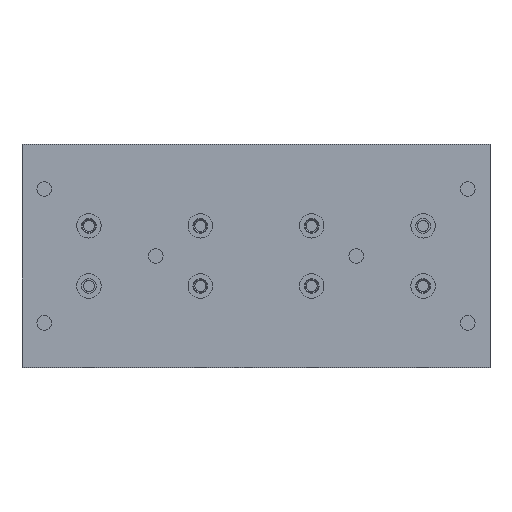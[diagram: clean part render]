
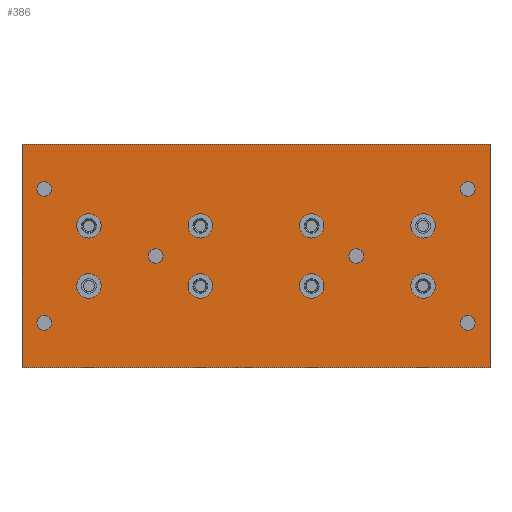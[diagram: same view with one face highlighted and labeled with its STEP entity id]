
A CAD part, top view. The second image highlights one B-rep face of the part: STEP entity #386.
In plain terms, the highlighted planar face has unit normal (0, 0, 1) as drawn and (0, 0, -1) by its records, which use the part's own axes.
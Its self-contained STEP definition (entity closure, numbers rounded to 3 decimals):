
#386=ADVANCED_FACE('',(#1080,#1081,#1082,#1083,#1084,#1085,#1086,#1087,
#1088,#1089,#1090,#1091,#1092,#1093,#1094),#501,.F.);
#501=PLANE('',#3344);
#645=LINE('',#4936,#797);
#646=LINE('',#4939,#798);
#647=LINE('',#4941,#799);
#648=LINE('',#4943,#800);
#797=VECTOR('',#4084,1.);
#798=VECTOR('',#4085,1.);
#799=VECTOR('',#4086,1.);
#800=VECTOR('',#4087,1.);
#1080=FACE_BOUND('',#1473,.T.);
#1081=FACE_BOUND('',#1474,.T.);
#1082=FACE_BOUND('',#1475,.T.);
#1083=FACE_BOUND('',#1476,.T.);
#1084=FACE_BOUND('',#1477,.T.);
#1085=FACE_BOUND('',#1478,.T.);
#1086=FACE_BOUND('',#1479,.T.);
#1087=FACE_BOUND('',#1480,.T.);
#1088=FACE_BOUND('',#1481,.T.);
#1089=FACE_BOUND('',#1482,.T.);
#1090=FACE_BOUND('',#1483,.T.);
#1091=FACE_BOUND('',#1484,.T.);
#1092=FACE_BOUND('',#1485,.T.);
#1093=FACE_BOUND('',#1486,.T.);
#1094=FACE_BOUND('',#1487,.T.);
#1473=EDGE_LOOP('',(#2083));
#1474=EDGE_LOOP('',(#2084));
#1475=EDGE_LOOP('',(#2085));
#1476=EDGE_LOOP('',(#2086,#2087,#2088,#2089));
#1477=EDGE_LOOP('',(#2090));
#1478=EDGE_LOOP('',(#2091));
#1479=EDGE_LOOP('',(#2092));
#1480=EDGE_LOOP('',(#2093));
#1481=EDGE_LOOP('',(#2094));
#1482=EDGE_LOOP('',(#2095));
#1483=EDGE_LOOP('',(#2096));
#1484=EDGE_LOOP('',(#2097));
#1485=EDGE_LOOP('',(#2098));
#1486=EDGE_LOOP('',(#2099));
#1487=EDGE_LOOP('',(#2100));
#2083=ORIENTED_EDGE('',*,*,#2798,.T.);
#2084=ORIENTED_EDGE('',*,*,#2799,.T.);
#2085=ORIENTED_EDGE('',*,*,#2800,.F.);
#2086=ORIENTED_EDGE('',*,*,#2801,.F.);
#2087=ORIENTED_EDGE('',*,*,#2802,.F.);
#2088=ORIENTED_EDGE('',*,*,#2803,.F.);
#2089=ORIENTED_EDGE('',*,*,#2804,.F.);
#2090=ORIENTED_EDGE('',*,*,#2805,.F.);
#2091=ORIENTED_EDGE('',*,*,#2806,.F.);
#2092=ORIENTED_EDGE('',*,*,#2807,.F.);
#2093=ORIENTED_EDGE('',*,*,#2808,.F.);
#2094=ORIENTED_EDGE('',*,*,#2809,.F.);
#2095=ORIENTED_EDGE('',*,*,#2810,.F.);
#2096=ORIENTED_EDGE('',*,*,#2811,.T.);
#2097=ORIENTED_EDGE('',*,*,#2812,.T.);
#2098=ORIENTED_EDGE('',*,*,#2813,.T.);
#2099=ORIENTED_EDGE('',*,*,#2814,.T.);
#2100=ORIENTED_EDGE('',*,*,#2815,.F.);
#2475=VERTEX_POINT('',#4931);
#2476=VERTEX_POINT('',#4933);
#2477=VERTEX_POINT('',#4935);
#2478=VERTEX_POINT('',#4937);
#2479=VERTEX_POINT('',#4938);
#2480=VERTEX_POINT('',#4940);
#2481=VERTEX_POINT('',#4942);
#2482=VERTEX_POINT('',#4945);
#2483=VERTEX_POINT('',#4947);
#2484=VERTEX_POINT('',#4949);
#2485=VERTEX_POINT('',#4951);
#2486=VERTEX_POINT('',#4953);
#2487=VERTEX_POINT('',#4955);
#2488=VERTEX_POINT('',#4957);
#2489=VERTEX_POINT('',#4959);
#2490=VERTEX_POINT('',#4961);
#2491=VERTEX_POINT('',#4963);
#2492=VERTEX_POINT('',#4965);
#2798=EDGE_CURVE('',#2475,#2475,#3016,.T.);
#2799=EDGE_CURVE('',#2476,#2476,#3017,.T.);
#2800=EDGE_CURVE('',#2477,#2477,#3018,.T.);
#2801=EDGE_CURVE('',#2478,#2479,#645,.T.);
#2802=EDGE_CURVE('',#2480,#2478,#646,.T.);
#2803=EDGE_CURVE('',#2481,#2480,#647,.T.);
#2804=EDGE_CURVE('',#2479,#2481,#648,.T.);
#2805=EDGE_CURVE('',#2482,#2482,#3019,.T.);
#2806=EDGE_CURVE('',#2483,#2483,#3020,.T.);
#2807=EDGE_CURVE('',#2484,#2484,#3021,.T.);
#2808=EDGE_CURVE('',#2485,#2485,#3022,.T.);
#2809=EDGE_CURVE('',#2486,#2486,#3023,.T.);
#2810=EDGE_CURVE('',#2487,#2487,#3024,.T.);
#2811=EDGE_CURVE('',#2488,#2488,#3025,.T.);
#2812=EDGE_CURVE('',#2489,#2489,#3026,.T.);
#2813=EDGE_CURVE('',#2490,#2490,#3027,.T.);
#2814=EDGE_CURVE('',#2491,#2491,#3028,.T.);
#2815=EDGE_CURVE('',#2492,#2492,#3029,.T.);
#3016=CIRCLE('',#3330,3.3);
#3017=CIRCLE('',#3331,3.3);
#3018=CIRCLE('',#3332,5.5);
#3019=CIRCLE('',#3333,5.5);
#3020=CIRCLE('',#3334,5.5);
#3021=CIRCLE('',#3335,5.5);
#3022=CIRCLE('',#3336,5.5);
#3023=CIRCLE('',#3337,5.5);
#3024=CIRCLE('',#3338,5.5);
#3025=CIRCLE('',#3339,3.3);
#3026=CIRCLE('',#3340,3.3);
#3027=CIRCLE('',#3341,3.3);
#3028=CIRCLE('',#3342,3.3);
#3029=CIRCLE('',#3343,5.5);
#3330=AXIS2_PLACEMENT_3D('',#4930,#4078,#4079);
#3331=AXIS2_PLACEMENT_3D('',#4932,#4080,#4081);
#3332=AXIS2_PLACEMENT_3D('',#4934,#4082,#4083);
#3333=AXIS2_PLACEMENT_3D('',#4944,#4088,#4089);
#3334=AXIS2_PLACEMENT_3D('',#4946,#4090,#4091);
#3335=AXIS2_PLACEMENT_3D('',#4948,#4092,#4093);
#3336=AXIS2_PLACEMENT_3D('',#4950,#4094,#4095);
#3337=AXIS2_PLACEMENT_3D('',#4952,#4096,#4097);
#3338=AXIS2_PLACEMENT_3D('',#4954,#4098,#4099);
#3339=AXIS2_PLACEMENT_3D('',#4956,#4100,#4101);
#3340=AXIS2_PLACEMENT_3D('',#4958,#4102,#4103);
#3341=AXIS2_PLACEMENT_3D('',#4960,#4104,#4105);
#3342=AXIS2_PLACEMENT_3D('',#4962,#4106,#4107);
#3343=AXIS2_PLACEMENT_3D('',#4964,#4108,#4109);
#3344=AXIS2_PLACEMENT_3D('',#4966,#4110,#4111);
#4078=DIRECTION('',(0.,0.,1.));
#4079=DIRECTION('',(1.,0.,0.));
#4080=DIRECTION('',(0.,0.,1.));
#4081=DIRECTION('',(1.,0.,0.));
#4082=DIRECTION('',(0.,0.,-1.));
#4083=DIRECTION('',(1.,0.,0.));
#4084=DIRECTION('',(-1.,0.,0.));
#4085=DIRECTION('',(0.,1.,0.));
#4086=DIRECTION('',(1.,0.,0.));
#4087=DIRECTION('',(0.,-1.,0.));
#4088=DIRECTION('',(0.,0.,-1.));
#4089=DIRECTION('',(1.,0.,0.));
#4090=DIRECTION('',(0.,0.,-1.));
#4091=DIRECTION('',(1.,0.,0.));
#4092=DIRECTION('',(0.,0.,-1.));
#4093=DIRECTION('',(1.,0.,0.));
#4094=DIRECTION('',(0.,0.,-1.));
#4095=DIRECTION('',(1.,0.,0.));
#4096=DIRECTION('',(0.,0.,-1.));
#4097=DIRECTION('',(1.,0.,0.));
#4098=DIRECTION('',(0.,0.,-1.));
#4099=DIRECTION('',(1.,0.,0.));
#4100=DIRECTION('',(0.,0.,1.));
#4101=DIRECTION('',(-1.,0.,0.));
#4102=DIRECTION('',(0.,0.,1.));
#4103=DIRECTION('',(-1.,0.,0.));
#4104=DIRECTION('',(0.,0.,1.));
#4105=DIRECTION('',(-1.,0.,0.));
#4106=DIRECTION('',(0.,0.,1.));
#4107=DIRECTION('',(-1.,0.,0.));
#4108=DIRECTION('',(0.,0.,-1.));
#4109=DIRECTION('',(1.,0.,0.));
#4110=DIRECTION('',(0.,0.,1.));
#4111=DIRECTION('',(-1.,0.,0.));
#4930=CARTESIAN_POINT('',(60.,0.,0.));
#4931=CARTESIAN_POINT('',(63.3,0.,0.));
#4932=CARTESIAN_POINT('',(150.,0.,0.));
#4933=CARTESIAN_POINT('',(153.3,0.,0.));
#4934=CARTESIAN_POINT('',(180.,13.5,0.));
#4935=CARTESIAN_POINT('',(185.5,13.5,0.));
#4936=CARTESIAN_POINT('',(160.,50.,0.));
#4937=CARTESIAN_POINT('',(210.,50.,0.));
#4938=CARTESIAN_POINT('',(0.,50.,0.));
#4939=CARTESIAN_POINT('',(210.,-50.,0.));
#4940=CARTESIAN_POINT('',(210.,-50.,0.));
#4941=CARTESIAN_POINT('',(0.,-50.,0.));
#4942=CARTESIAN_POINT('',(0.,-50.,0.));
#4943=CARTESIAN_POINT('',(0.,50.,0.));
#4944=CARTESIAN_POINT('',(30.,-13.5,0.));
#4945=CARTESIAN_POINT('',(35.5,-13.5,0.));
#4946=CARTESIAN_POINT('',(80.,-13.5,0.));
#4947=CARTESIAN_POINT('',(85.5,-13.5,0.));
#4948=CARTESIAN_POINT('',(130.,-13.5,0.));
#4949=CARTESIAN_POINT('',(135.5,-13.5,0.));
#4950=CARTESIAN_POINT('',(30.,13.5,0.));
#4951=CARTESIAN_POINT('',(35.5,13.5,0.));
#4952=CARTESIAN_POINT('',(80.,13.5,0.));
#4953=CARTESIAN_POINT('',(85.5,13.5,0.));
#4954=CARTESIAN_POINT('',(130.,13.5,0.));
#4955=CARTESIAN_POINT('',(135.5,13.5,0.));
#4956=CARTESIAN_POINT('',(10.,-30.,0.));
#4957=CARTESIAN_POINT('',(6.7,-30.,0.));
#4958=CARTESIAN_POINT('',(200.,-30.,0.));
#4959=CARTESIAN_POINT('',(196.7,-30.,0.));
#4960=CARTESIAN_POINT('',(10.,30.,0.));
#4961=CARTESIAN_POINT('',(6.7,30.,0.));
#4962=CARTESIAN_POINT('',(200.,30.,0.));
#4963=CARTESIAN_POINT('',(196.7,30.,0.));
#4964=CARTESIAN_POINT('',(180.,-13.5,0.));
#4965=CARTESIAN_POINT('',(185.5,-13.5,0.));
#4966=CARTESIAN_POINT('',(0.,0.,0.));
